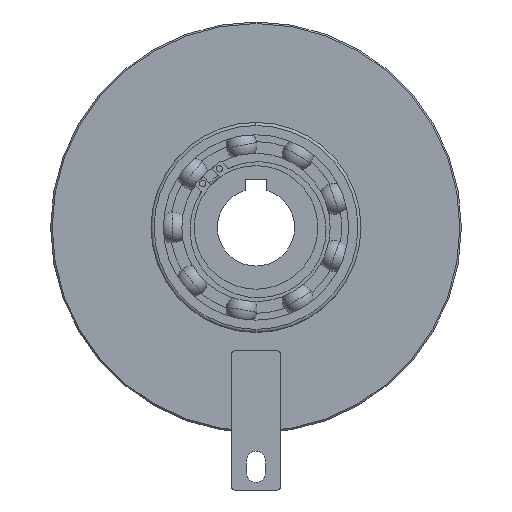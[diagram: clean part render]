
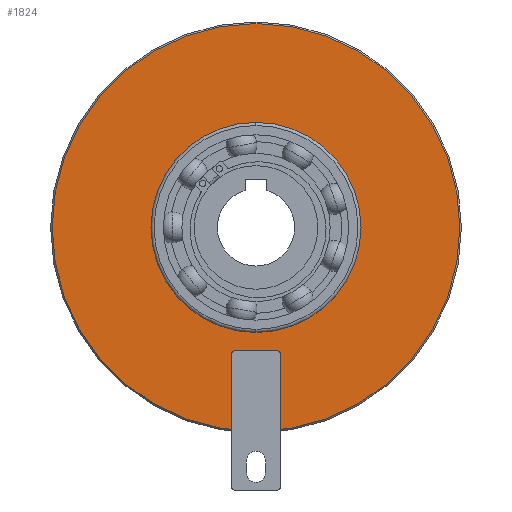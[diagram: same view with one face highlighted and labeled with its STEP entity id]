
A CAD part, front view. The second image highlights one B-rep face of the part: STEP entity #1824.
In plain terms, the highlighted planar face has unit normal (0, -1, 0).
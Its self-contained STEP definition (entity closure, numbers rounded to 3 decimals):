
#9 = ORIENTED_EDGE ( 'NONE', *, *, #411, .F. ) ;
#411 = EDGE_CURVE ( 'NONE', #3451, #564, #619, .T. ) ;
#545 = EDGE_CURVE ( 'NONE', #4659, #4451, #9903, .T. ) ;
#564 = VERTEX_POINT ( 'NONE', #4251 ) ;
#619 = CIRCLE ( 'NONE', #6744, 34. ) ;
#895 = AXIS2_PLACEMENT_3D ( 'NONE', #1965, #7347, #2752 ) ;
#975 = ORIENTED_EDGE ( 'NONE', *, *, #545, .T. ) ;
#978 = ORIENTED_EDGE ( 'NONE', *, *, #5133, .F. ) ;
#1148 = PLANE ( 'NONE',  #3198 ) ;
#1177 = DIRECTION ( 'NONE',  ( 0., 0., 1. ) ) ;
#1242 = CIRCLE ( 'NONE', #8179, 34. ) ;
#1431 = EDGE_LOOP ( 'NONE', ( #975, #3314 ) ) ;
#1766 = CARTESIAN_POINT ( 'NONE',  ( 0., -7.334, -66. ) ) ;
#1824 = ADVANCED_FACE ( 'NONE', ( #3874, #9805 ), #1148, .F. ) ;
#1965 = CARTESIAN_POINT ( 'NONE',  ( 0., -7.334, 0. ) ) ;
#2493 = CARTESIAN_POINT ( 'NONE',  ( 0., -7.334, -34. ) ) ;
#2748 = CIRCLE ( 'NONE', #7047, 66. ) ;
#2752 = DIRECTION ( 'NONE',  ( 0., 0., 1. ) ) ;
#3118 = DIRECTION ( 'NONE',  ( 0., -1., 0. ) ) ;
#3198 = AXIS2_PLACEMENT_3D ( 'NONE', #9635, #5768, #1177 ) ;
#3314 = ORIENTED_EDGE ( 'NONE', *, *, #4001, .T. ) ;
#3451 = VERTEX_POINT ( 'NONE', #2493 ) ;
#3830 = DIRECTION ( 'NONE',  ( 0., -1., 0. ) ) ;
#3874 = FACE_BOUND ( 'NONE', #9108, .T. ) ;
#4001 = EDGE_CURVE ( 'NONE', #4451, #4659, #2748, .T. ) ;
#4130 = CARTESIAN_POINT ( 'NONE',  ( 0., -7.334, 0. ) ) ;
#4251 = CARTESIAN_POINT ( 'NONE',  ( 0., -7.334, 34. ) ) ;
#4451 = VERTEX_POINT ( 'NONE', #1766 ) ;
#4659 = VERTEX_POINT ( 'NONE', #9693 ) ;
#4899 = DIRECTION ( 'NONE',  ( 0., 0., -1. ) ) ;
#5133 = EDGE_CURVE ( 'NONE', #564, #3451, #1242, .T. ) ;
#5768 = DIRECTION ( 'NONE',  ( 0., 1., 0. ) ) ;
#6744 = AXIS2_PLACEMENT_3D ( 'NONE', #4130, #9529, #4899 ) ;
#7047 = AXIS2_PLACEMENT_3D ( 'NONE', #7733, #3118, #8506 ) ;
#7347 = DIRECTION ( 'NONE',  ( 0., -1., 0. ) ) ;
#7733 = CARTESIAN_POINT ( 'NONE',  ( 0., -7.334, 0. ) ) ;
#8179 = AXIS2_PLACEMENT_3D ( 'NONE', #8451, #3830, #9226 ) ;
#8451 = CARTESIAN_POINT ( 'NONE',  ( 0., -7.334, 0. ) ) ;
#8506 = DIRECTION ( 'NONE',  ( 0., 0., 1. ) ) ;
#9108 = EDGE_LOOP ( 'NONE', ( #9, #978 ) ) ;
#9226 = DIRECTION ( 'NONE',  ( 0., 0., -1. ) ) ;
#9529 = DIRECTION ( 'NONE',  ( 0., -1., 0. ) ) ;
#9635 = CARTESIAN_POINT ( 'NONE',  ( 66.5, -7.334, 0. ) ) ;
#9693 = CARTESIAN_POINT ( 'NONE',  ( 0., -7.334, 66. ) ) ;
#9805 = FACE_OUTER_BOUND ( 'NONE', #1431, .T. ) ;
#9903 = CIRCLE ( 'NONE', #895, 66. ) ;
